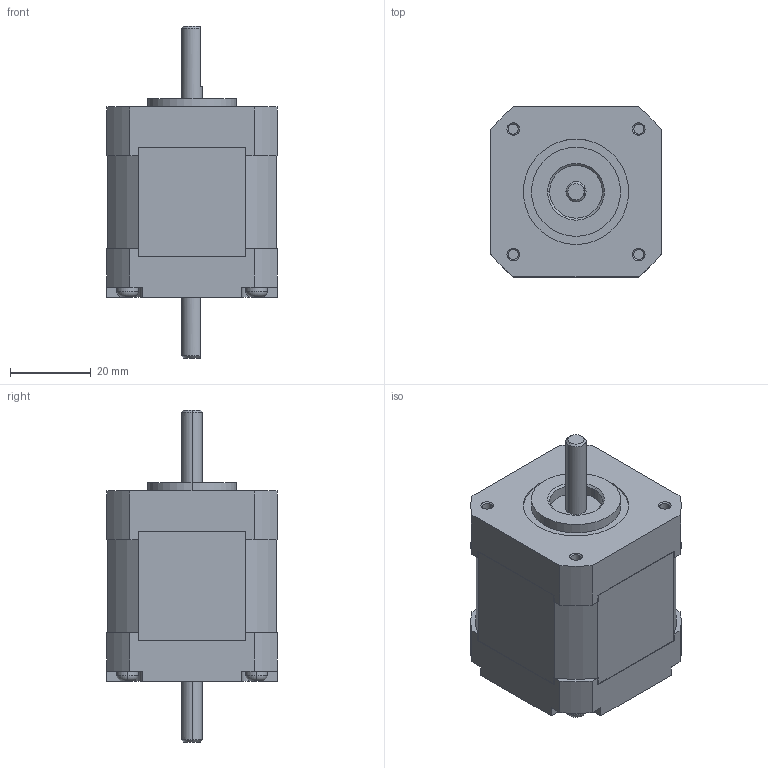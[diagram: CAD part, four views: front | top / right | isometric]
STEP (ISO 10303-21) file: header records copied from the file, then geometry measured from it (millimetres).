
FILE_DESCRIPTION (( 'STEP AP214' ), '1' );
FILE_NAME ('TS3667N13.STEP', '2011-09-15T09:05:10', ( '' ), ( '' ), 'SwSTEP 2.0', 'SolidWorks 2010', '' );
FILE_SCHEMA (( 'AUTOMOTIVE_DESIGN' ));
Length unit declared in the file: millimetre
Products named in the file (1): TS3667N13
Bounding box: 42 x 42 x 82 mm (x, y, z)
Volume: 79021.6 mm3; surface area: 15767.5 mm2
Topology: 2 solids, 2 shells, 195 faces, 512 edges, 332 vertices
Faces by surface type: plane 99, cylinder 72, cone 16, torus 8
Entity records: 6400 total; most frequent: CARTESIAN_POINT 1320, DIRECTION 1060, ORIENTED_EDGE 1024, EDGE_CURVE 512, AXIS2_PLACEMENT_3D 388, VERTEX_POINT 332, VECTOR 284, LINE 284
